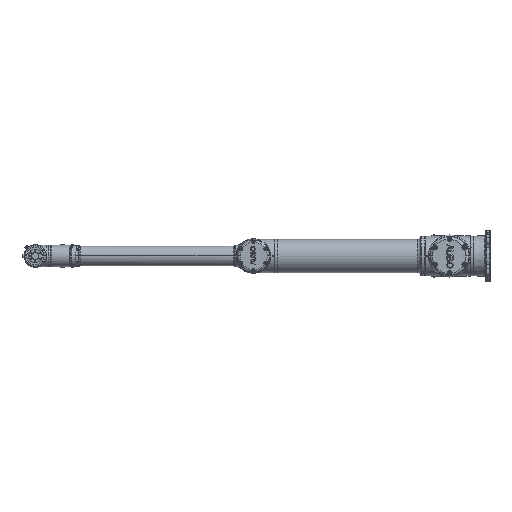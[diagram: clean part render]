
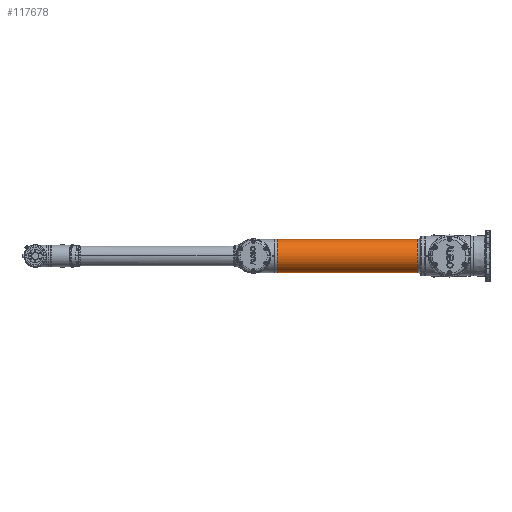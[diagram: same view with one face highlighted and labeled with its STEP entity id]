
A CAD part, left-side view. The second image highlights one B-rep face of the part: STEP entity #117678.
In plain terms, the highlighted cylindrical face has radius 76 mm (diameter 152 mm), a partial arc.
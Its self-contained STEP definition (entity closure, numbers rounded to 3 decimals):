
#6593 = AXIS2_PLACEMENT_3D ( 'NONE', #109155, #146773, #161296 ) ;
#7641 = LINE ( 'NONE', #137531, #71062 ) ;
#12585 = VERTEX_POINT ( 'NONE', #89854 ) ;
#14851 = ORIENTED_EDGE ( 'NONE', *, *, #121293, .T. ) ;
#19981 = DIRECTION ( 'NONE',  ( -1., 0., 0. ) ) ;
#23521 = ORIENTED_EDGE ( 'NONE', *, *, #150799, .F. ) ;
#30127 = ORIENTED_EDGE ( 'NONE', *, *, #147718, .T. ) ;
#32694 = ORIENTED_EDGE ( 'NONE', *, *, #126735, .F. ) ;
#38187 = LINE ( 'NONE', #90309, #66993 ) ;
#49930 = AXIS2_PLACEMENT_3D ( 'NONE', #84884, #113094, #19981 ) ;
#49945 = CYLINDRICAL_SURFACE ( 'NONE', #150954, 76. ) ;
#64537 = VERTEX_POINT ( 'NONE', #119885 ) ;
#66993 = VECTOR ( 'NONE', #142460, 1000. ) ;
#71062 = VECTOR ( 'NONE', #112720, 1000. ) ;
#75282 = CARTESIAN_POINT ( 'NONE',  ( 43.663, 19.137, 258.439 ) ) ;
#79251 = EDGE_LOOP ( 'NONE', ( #23521, #32694, #14851, #30127 ) ) ;
#84884 = CARTESIAN_POINT ( 'NONE',  ( -32.337, 19.137, 258.439 ) ) ;
#89854 = CARTESIAN_POINT ( 'NONE',  ( 43.663, 19.137, -383.161 ) ) ;
#90309 = CARTESIAN_POINT ( 'NONE',  ( 43.663, 19.137, 308.439 ) ) ;
#98931 = VERTEX_POINT ( 'NONE', #75282 ) ;
#102134 = DIRECTION ( 'NONE',  ( 0., 0., -1. ) ) ;
#108777 = CARTESIAN_POINT ( 'NONE',  ( -108.337, 19.137, -383.161 ) ) ;
#109155 = CARTESIAN_POINT ( 'NONE',  ( -32.337, 19.137, -383.161 ) ) ;
#112720 = DIRECTION ( 'NONE',  ( 0., 0., -1. ) ) ;
#113094 = DIRECTION ( 'NONE',  ( 0., 0., 1. ) ) ;
#113369 = VERTEX_POINT ( 'NONE', #108777 ) ;
#115774 = CARTESIAN_POINT ( 'NONE',  ( -32.337, 19.137, 308.439 ) ) ;
#117482 = FACE_OUTER_BOUND ( 'NONE', #79251, .T. ) ;
#117678 = ADVANCED_FACE ( 'NONE', ( #117482 ), #49945, .T. ) ;
#119885 = CARTESIAN_POINT ( 'NONE',  ( -108.337, 19.137, 258.439 ) ) ;
#120993 = CIRCLE ( 'NONE', #49930, 76. ) ;
#121293 = EDGE_CURVE ( 'NONE', #64537, #113369, #7641, .T. ) ;
#126735 = EDGE_CURVE ( 'NONE', #64537, #98931, #120993, .T. ) ;
#137531 = CARTESIAN_POINT ( 'NONE',  ( -108.337, 19.137, 308.439 ) ) ;
#137611 = CIRCLE ( 'NONE', #6593, 76. ) ;
#141442 = DIRECTION ( 'NONE',  ( -1., 0., 0. ) ) ;
#142460 = DIRECTION ( 'NONE',  ( 0., 0., -1. ) ) ;
#146773 = DIRECTION ( 'NONE',  ( 0., 0., 1. ) ) ;
#147718 = EDGE_CURVE ( 'NONE', #113369, #12585, #137611, .T. ) ;
#150799 = EDGE_CURVE ( 'NONE', #98931, #12585, #38187, .T. ) ;
#150954 = AXIS2_PLACEMENT_3D ( 'NONE', #115774, #102134, #141442 ) ;
#161296 = DIRECTION ( 'NONE',  ( -1., 0., 0. ) ) ;
